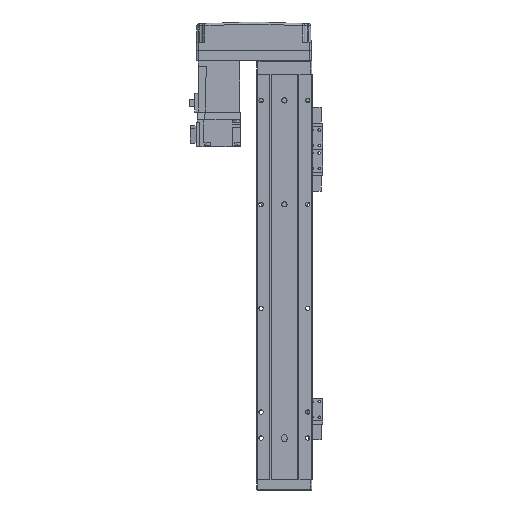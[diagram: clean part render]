
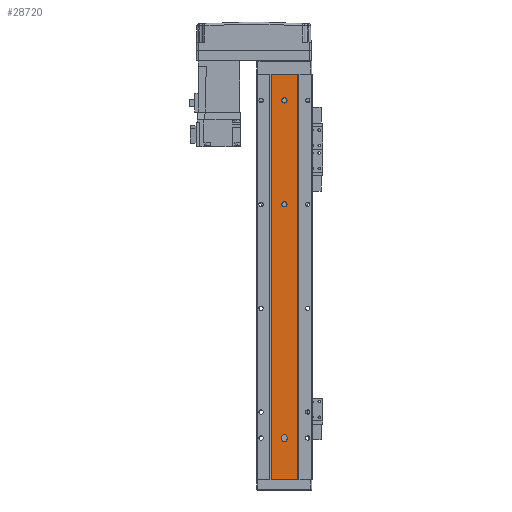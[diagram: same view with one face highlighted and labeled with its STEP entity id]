
A CAD part, front view. The second image highlights one B-rep face of the part: STEP entity #28720.
In plain terms, the highlighted planar face has unit normal (0, -1, 0).
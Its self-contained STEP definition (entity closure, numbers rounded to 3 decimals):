
#99 = ORIENTED_EDGE ( 'NONE', *, *, #27493, .T. ) ;
#382 = CARTESIAN_POINT ( 'NONE',  ( 12.293, 1.5, -390. ) ) ;
#549 = VERTEX_POINT ( 'NONE', #2540 ) ;
#964 = CARTESIAN_POINT ( 'NONE',  ( -2.5, 1.5, -351. ) ) ;
#1776 = EDGE_CURVE ( 'NONE', #14546, #15279, #9732, .T. ) ;
#2189 = VERTEX_POINT ( 'NONE', #27408 ) ;
#2540 = CARTESIAN_POINT ( 'NONE',  ( -2.5, 1.5, -125. ) ) ;
#2801 = AXIS2_PLACEMENT_3D ( 'NONE', #30458, #6875, #15931 ) ;
#2973 = ORIENTED_EDGE ( 'NONE', *, *, #1776, .F. ) ;
#3340 = DIRECTION ( 'NONE',  ( 1., 0., 0. ) ) ;
#3410 = CARTESIAN_POINT ( 'NONE',  ( 2.5, 1.5, -349. ) ) ;
#3568 = DIRECTION ( 'NONE',  ( 1., 0., 0. ) ) ;
#4263 = DIRECTION ( 'NONE',  ( 0., 0., -1. ) ) ;
#4403 = DIRECTION ( 'NONE',  ( 1., 0., 0. ) ) ;
#4966 = CARTESIAN_POINT ( 'NONE',  ( -12.293, 1.5, 0. ) ) ;
#5586 = CIRCLE ( 'NONE', #29500, 2.5 ) ;
#6272 = EDGE_CURVE ( 'NONE', #15279, #31677, #29899, .T. ) ;
#6480 = LINE ( 'NONE', #17767, #16643 ) ;
#6702 = CARTESIAN_POINT ( 'NONE',  ( -2.5, 1.5, -25. ) ) ;
#6875 = DIRECTION ( 'NONE',  ( 0., -1., 0. ) ) ;
#7091 = AXIS2_PLACEMENT_3D ( 'NONE', #11766, #20324, #37969 ) ;
#8179 = EDGE_CURVE ( 'NONE', #31677, #30684, #23621, .T. ) ;
#8910 = VECTOR ( 'NONE', #16166, 1000. ) ;
#9732 = CIRCLE ( 'NONE', #24062, 2.5 ) ;
#10079 = EDGE_LOOP ( 'NONE', ( #20025, #17916 ) ) ;
#10254 = AXIS2_PLACEMENT_3D ( 'NONE', #35713, #18151, #35964 ) ;
#10747 = ORIENTED_EDGE ( 'NONE', *, *, #21433, .T. ) ;
#11099 = CARTESIAN_POINT ( 'NONE',  ( 12.293, 1.5, -390. ) ) ;
#11230 = AXIS2_PLACEMENT_3D ( 'NONE', #19694, #30857, #36722 ) ;
#11431 = FACE_BOUND ( 'NONE', #18988, .T. ) ;
#11766 = CARTESIAN_POINT ( 'NONE',  ( 0., 1.5, -351. ) ) ;
#11899 = LINE ( 'NONE', #19257, #31684 ) ;
#12340 = ORIENTED_EDGE ( 'NONE', *, *, #19079, .F. ) ;
#12438 = EDGE_CURVE ( 'NONE', #30684, #14546, #6480, .T. ) ;
#12480 = VERTEX_POINT ( 'NONE', #35704 ) ;
#12825 = FACE_BOUND ( 'NONE', #10079, .T. ) ;
#13473 = CIRCLE ( 'NONE', #2801, 2.5 ) ;
#14238 = VECTOR ( 'NONE', #4263, 1000. ) ;
#14546 = VERTEX_POINT ( 'NONE', #3410 ) ;
#14912 = DIRECTION ( 'NONE',  ( 0., -1., 0. ) ) ;
#15039 = CARTESIAN_POINT ( 'NONE',  ( 0., 1.5, -25. ) ) ;
#15178 = AXIS2_PLACEMENT_3D ( 'NONE', #11099, #37322, #22609 ) ;
#15279 = VERTEX_POINT ( 'NONE', #31078 ) ;
#15931 = DIRECTION ( 'NONE',  ( 1., 0., 0. ) ) ;
#16166 = DIRECTION ( 'NONE',  ( 0., 0., 1. ) ) ;
#16643 = VECTOR ( 'NONE', #32796, 1000. ) ;
#16943 = EDGE_CURVE ( 'NONE', #20988, #21007, #13473, .T. ) ;
#16973 = ORIENTED_EDGE ( 'NONE', *, *, #6272, .F. ) ;
#17767 = CARTESIAN_POINT ( 'NONE',  ( 2.5, 1.5, -390. ) ) ;
#17916 = ORIENTED_EDGE ( 'NONE', *, *, #29484, .F. ) ;
#18151 = DIRECTION ( 'NONE',  ( 0., -1., 0. ) ) ;
#18207 = CARTESIAN_POINT ( 'NONE',  ( 2.5, 1.5, -25. ) ) ;
#18988 = EDGE_LOOP ( 'NONE', ( #25727, #16973, #2973, #28067 ) ) ;
#19036 = VERTEX_POINT ( 'NONE', #27225 ) ;
#19060 = ORIENTED_EDGE ( 'NONE', *, *, #32287, .F. ) ;
#19079 = EDGE_CURVE ( 'NONE', #12480, #32955, #22337, .T. ) ;
#19257 = CARTESIAN_POINT ( 'NONE',  ( 12.293, 1.5, 0. ) ) ;
#19632 = DIRECTION ( 'NONE',  ( 1., 0., 0. ) ) ;
#19689 = CIRCLE ( 'NONE', #11230, 2.5 ) ;
#19694 = CARTESIAN_POINT ( 'NONE',  ( 0., 1.5, -125. ) ) ;
#19805 = VERTEX_POINT ( 'NONE', #24349 ) ;
#20025 = ORIENTED_EDGE ( 'NONE', *, *, #34438, .F. ) ;
#20324 = DIRECTION ( 'NONE',  ( 0., -1., 0. ) ) ;
#20988 = VERTEX_POINT ( 'NONE', #6702 ) ;
#21007 = VERTEX_POINT ( 'NONE', #18207 ) ;
#21108 = CARTESIAN_POINT ( 'NONE',  ( 12.293, 1.5, -390. ) ) ;
#21433 = EDGE_CURVE ( 'NONE', #12480, #19805, #29384, .T. ) ;
#21611 = VECTOR ( 'NONE', #3340, 1000. ) ;
#22212 = CARTESIAN_POINT ( 'NONE',  ( -2.5, 1.5, -390. ) ) ;
#22337 = LINE ( 'NONE', #27860, #8910 ) ;
#22609 = DIRECTION ( 'NONE',  ( 1., 0., 0. ) ) ;
#23621 = CIRCLE ( 'NONE', #7091, 2.5 ) ;
#23856 = CIRCLE ( 'NONE', #10254, 2.5 ) ;
#24062 = AXIS2_PLACEMENT_3D ( 'NONE', #25155, #33867, #4403 ) ;
#24198 = DIRECTION ( 'NONE',  ( 0., 0., 1. ) ) ;
#24349 = CARTESIAN_POINT ( 'NONE',  ( 12.293, 1.5, -390. ) ) ;
#25061 = VECTOR ( 'NONE', #24198, 1000. ) ;
#25155 = CARTESIAN_POINT ( 'NONE',  ( 0., 1.5, -349. ) ) ;
#25727 = ORIENTED_EDGE ( 'NONE', *, *, #8179, .F. ) ;
#27225 = CARTESIAN_POINT ( 'NONE',  ( 12.293, 1.5, 0. ) ) ;
#27408 = CARTESIAN_POINT ( 'NONE',  ( 2.5, 1.5, -125. ) ) ;
#27493 = EDGE_CURVE ( 'NONE', #19805, #19036, #31449, .T. ) ;
#27860 = CARTESIAN_POINT ( 'NONE',  ( -12.293, 1.5, -390. ) ) ;
#28067 = ORIENTED_EDGE ( 'NONE', *, *, #12438, .F. ) ;
#28330 = ORIENTED_EDGE ( 'NONE', *, *, #34168, .F. ) ;
#28490 = EDGE_LOOP ( 'NONE', ( #19060, #12340, #10747, #99 ) ) ;
#28720 = ADVANCED_FACE ( 'NONE', ( #11431, #12825, #35311, #33525 ), #34609, .T. ) ;
#29384 = LINE ( 'NONE', #382, #21611 ) ;
#29484 = EDGE_CURVE ( 'NONE', #549, #2189, #23856, .T. ) ;
#29500 = AXIS2_PLACEMENT_3D ( 'NONE', #15039, #14912, #3568 ) ;
#29899 = LINE ( 'NONE', #22212, #14238 ) ;
#30458 = CARTESIAN_POINT ( 'NONE',  ( 0., 1.5, -25. ) ) ;
#30684 = VERTEX_POINT ( 'NONE', #37900 ) ;
#30857 = DIRECTION ( 'NONE',  ( 0., -1., 0. ) ) ;
#31078 = CARTESIAN_POINT ( 'NONE',  ( -2.5, 1.5, -349. ) ) ;
#31449 = LINE ( 'NONE', #21108, #25061 ) ;
#31677 = VERTEX_POINT ( 'NONE', #964 ) ;
#31684 = VECTOR ( 'NONE', #19632, 1000. ) ;
#32287 = EDGE_CURVE ( 'NONE', #32955, #19036, #11899, .T. ) ;
#32796 = DIRECTION ( 'NONE',  ( 0., 0., 1. ) ) ;
#32955 = VERTEX_POINT ( 'NONE', #4966 ) ;
#33123 = EDGE_LOOP ( 'NONE', ( #28330, #38094 ) ) ;
#33525 = FACE_OUTER_BOUND ( 'NONE', #28490, .T. ) ;
#33867 = DIRECTION ( 'NONE',  ( 0., -1., 0. ) ) ;
#34168 = EDGE_CURVE ( 'NONE', #21007, #20988, #5586, .T. ) ;
#34438 = EDGE_CURVE ( 'NONE', #2189, #549, #19689, .T. ) ;
#34609 = PLANE ( 'NONE',  #15178 ) ;
#35311 = FACE_BOUND ( 'NONE', #33123, .T. ) ;
#35704 = CARTESIAN_POINT ( 'NONE',  ( -12.293, 1.5, -390. ) ) ;
#35713 = CARTESIAN_POINT ( 'NONE',  ( 0., 1.5, -125. ) ) ;
#35964 = DIRECTION ( 'NONE',  ( 1., 0., 0. ) ) ;
#36722 = DIRECTION ( 'NONE',  ( 1., 0., 0. ) ) ;
#37322 = DIRECTION ( 'NONE',  ( 0., -1., 0. ) ) ;
#37900 = CARTESIAN_POINT ( 'NONE',  ( 2.5, 1.5, -351. ) ) ;
#37969 = DIRECTION ( 'NONE',  ( 1., 0., 0. ) ) ;
#38094 = ORIENTED_EDGE ( 'NONE', *, *, #16943, .F. ) ;
